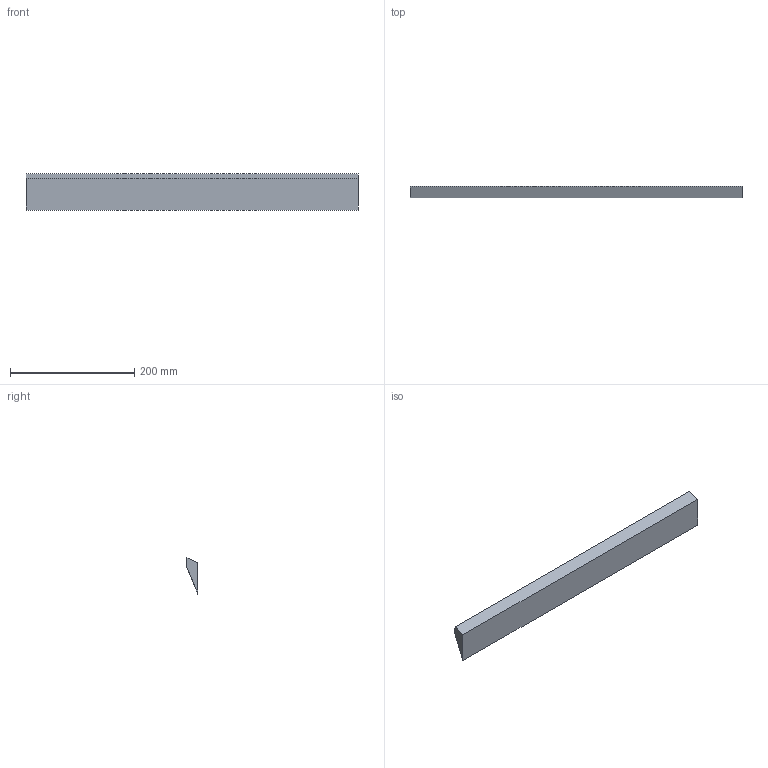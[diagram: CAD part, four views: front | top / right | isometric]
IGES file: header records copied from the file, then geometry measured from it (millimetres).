
Start section:  PTC IGES file: C:\Documents and Settings\Brad\Desktop\IGES\front_corner .igs
Global section: file name: C:\Documents and Settings\Brad\Desktop\IGES\front_corner.igs; native system: Brad by Parametric Technology Corporation; preprocessor: 2003250; author: Unknown; organization: PTC; date: 040521.142625; units: inch
Bounding box: 533.4 x 19.05 x 58.09 mm (x, y, z)
Volume: 321034.1 mm3; surface area: 71622 mm2
Topology: 1 solids, 1 shells, 7 faces, 15 edges, 10 vertices
Faces by surface type: bspline 7
